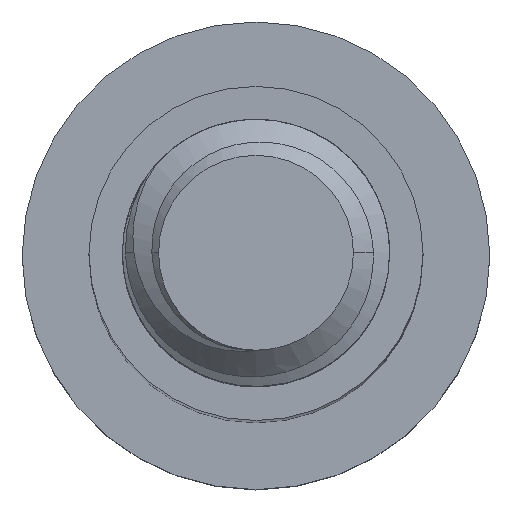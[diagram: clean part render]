
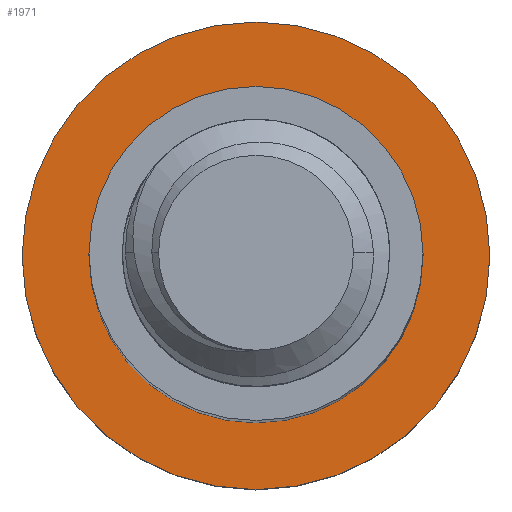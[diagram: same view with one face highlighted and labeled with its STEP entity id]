
A CAD part, top view. The second image highlights one B-rep face of the part: STEP entity #1971.
In plain terms, the highlighted planar face has unit normal (0, 0, 1).
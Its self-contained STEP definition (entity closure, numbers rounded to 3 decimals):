
#126 = EDGE_CURVE ( 'NONE', #1844, #2731, #3206, .T. ) ;
#248 = AXIS2_PLACEMENT_3D ( 'NONE', #968, #3537, #251 ) ;
#251 = DIRECTION ( 'NONE',  ( -1., 0., 0. ) ) ;
#300 = DIRECTION ( 'NONE',  ( 0., 0., -1. ) ) ;
#461 = CIRCLE ( 'NONE', #817, 7. ) ;
#584 = PLANE ( 'NONE',  #3211 ) ;
#600 = ORIENTED_EDGE ( 'NONE', *, *, #3940, .T. ) ;
#723 = EDGE_LOOP ( 'NONE', ( #3640, #4235 ) ) ;
#817 = AXIS2_PLACEMENT_3D ( 'NONE', #3007, #300, #982 ) ;
#870 = CARTESIAN_POINT ( 'NONE',  ( 0., 0., -40. ) ) ;
#968 = CARTESIAN_POINT ( 'NONE',  ( 0., 0., -40. ) ) ;
#982 = DIRECTION ( 'NONE',  ( -1., 0., 0. ) ) ;
#987 = CARTESIAN_POINT ( 'NONE',  ( 7., 0., -40. ) ) ;
#1262 = VERTEX_POINT ( 'NONE', #2257 ) ;
#1406 = ORIENTED_EDGE ( 'NONE', *, *, #3991, .T. ) ;
#1508 = CARTESIAN_POINT ( 'NONE',  ( -7., 0., -40. ) ) ;
#1536 = EDGE_LOOP ( 'NONE', ( #600, #1406 ) ) ;
#1557 = AXIS2_PLACEMENT_3D ( 'NONE', #3255, #2629, #2166 ) ;
#1616 = CIRCLE ( 'NONE', #1974, 5. ) ;
#1801 = DIRECTION ( 'NONE',  ( 0., 0., -1. ) ) ;
#1844 = VERTEX_POINT ( 'NONE', #987 ) ;
#1968 = VERTEX_POINT ( 'NONE', #2217 ) ;
#1971 = ADVANCED_FACE ( 'NONE', ( #3536, #4221 ), #584, .F. ) ;
#1974 = AXIS2_PLACEMENT_3D ( 'NONE', #3751, #1801, #3404 ) ;
#2166 = DIRECTION ( 'NONE',  ( -1., 0., 0. ) ) ;
#2217 = CARTESIAN_POINT ( 'NONE',  ( -5., 0., -40. ) ) ;
#2257 = CARTESIAN_POINT ( 'NONE',  ( 5., 0., -40. ) ) ;
#2533 = EDGE_CURVE ( 'NONE', #2731, #1844, #461, .T. ) ;
#2537 = CIRCLE ( 'NONE', #248, 5. ) ;
#2629 = DIRECTION ( 'NONE',  ( 0., 0., -1. ) ) ;
#2731 = VERTEX_POINT ( 'NONE', #1508 ) ;
#3007 = CARTESIAN_POINT ( 'NONE',  ( 0., 0., -40. ) ) ;
#3206 = CIRCLE ( 'NONE', #1557, 7. ) ;
#3211 = AXIS2_PLACEMENT_3D ( 'NONE', #870, #3248, #3494 ) ;
#3248 = DIRECTION ( 'NONE',  ( 0., 0., -1. ) ) ;
#3255 = CARTESIAN_POINT ( 'NONE',  ( 0., 0., -40. ) ) ;
#3404 = DIRECTION ( 'NONE',  ( -1., 0., 0. ) ) ;
#3494 = DIRECTION ( 'NONE',  ( -1., 0., 0. ) ) ;
#3536 = FACE_BOUND ( 'NONE', #1536, .T. ) ;
#3537 = DIRECTION ( 'NONE',  ( 0., 0., -1. ) ) ;
#3640 = ORIENTED_EDGE ( 'NONE', *, *, #126, .F. ) ;
#3751 = CARTESIAN_POINT ( 'NONE',  ( 0., 0., -40. ) ) ;
#3940 = EDGE_CURVE ( 'NONE', #1968, #1262, #2537, .T. ) ;
#3991 = EDGE_CURVE ( 'NONE', #1262, #1968, #1616, .T. ) ;
#4221 = FACE_OUTER_BOUND ( 'NONE', #723, .T. ) ;
#4235 = ORIENTED_EDGE ( 'NONE', *, *, #2533, .F. ) ;
